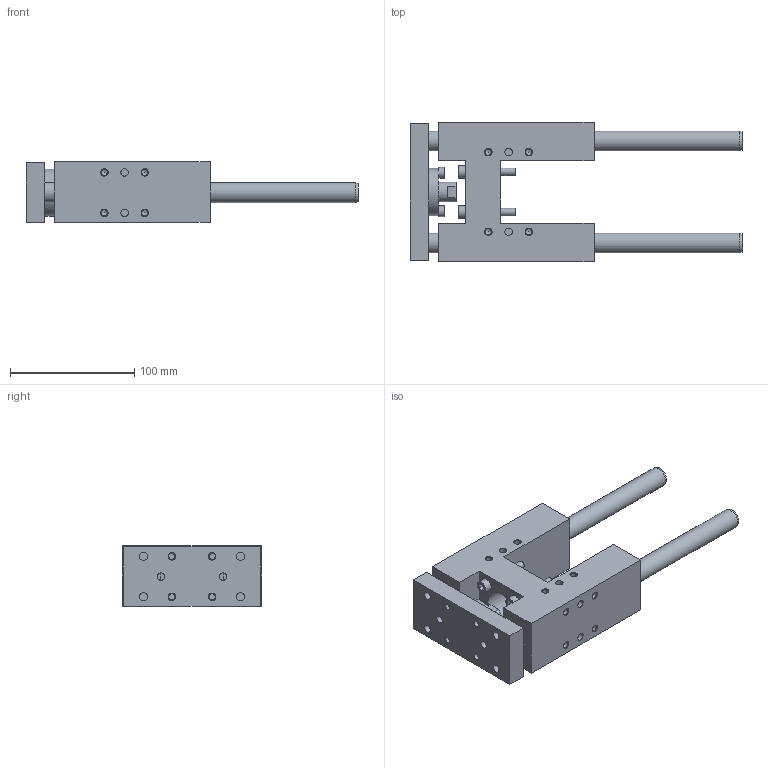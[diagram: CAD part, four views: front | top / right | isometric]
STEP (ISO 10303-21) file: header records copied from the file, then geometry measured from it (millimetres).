
FILE_DESCRIPTION( ( 'STEP AP214' ), '1' );
FILE_NAME( 'U:/Etudes/Top Solid/BIBLIO 3D AVM/TOP/PNEUMATIQUE/GUIDAGES/Type 32 (en H)/R_Renforcée/324R2_30.step', '2005-05-27T08:50:47', ( ' ' ), ( ' ' ), 'XStep 1.0', ' ', ' ' );
FILE_SCHEMA( ( 'automotive_design' ) );
Length unit declared in the file: metre
Products named in the file (2): 1; 2
Bounding box: 267 x 112 x 49 mm (x, y, z)
Volume: 559147.4 mm3; surface area: 122222.7 mm2
Topology: 2 solids, 5 shells, 269 faces, 602 edges, 401 vertices
Faces by surface type: plane 128, cylinder 96, cone 45
Full cylindrical faces by diameter (mm): 4.918 x32, 5 x4, 5.5 x2, 6 x16, 6.2 x12, 6.5 x4, 6.6 x4, 8.5 x2, 8.647 x2, 10 x4, 11 x4, 16 x5, 18 x1, 22.8 x1, 25 x1, 30 x1, 38 x1
Entity records: 8627 total; most frequent: CARTESIAN_POINT 1195, DIRECTION 1138, ORIENTED_EDGE 772, EDGE_LOOP 500, AXIS2_PLACEMENT_3D 487, EDGE_CURVE 386, FACE_OUTER_BOUND 365, VERTEX_POINT 340
